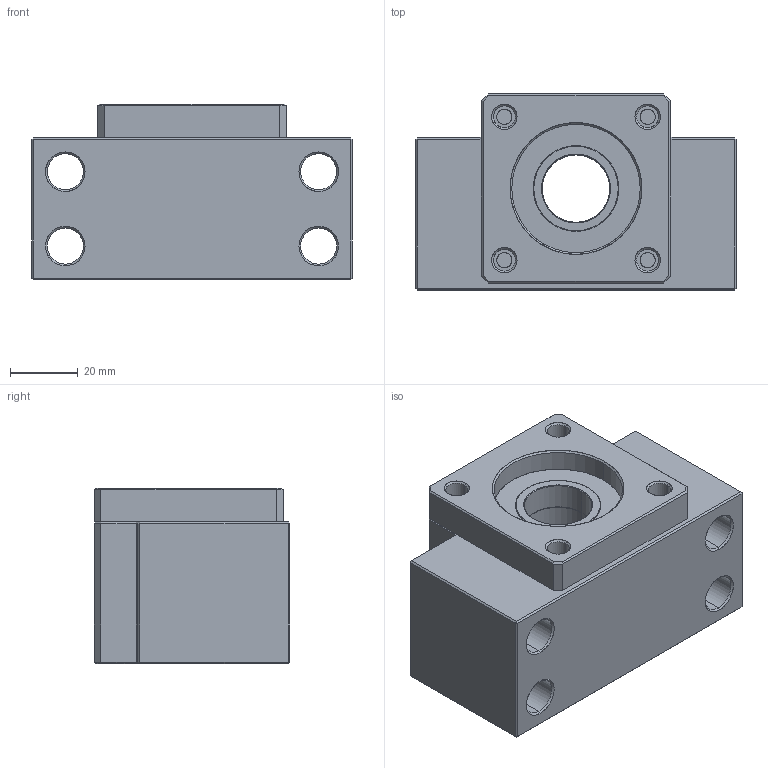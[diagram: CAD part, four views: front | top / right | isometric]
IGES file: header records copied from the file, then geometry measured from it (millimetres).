
Start section: SolidWorks IGES file using analytic representation for surfaces
Global section: file name: E:\同创达图纸\产品示意图\3D选型图\支撑座\AK系列\IGS\AK20.IGS; native system: SolidWorks 2012; preprocessor: SolidWorks 2012; author: gao; date: 130702.201658; units: millimetre
Bounding box: 95 x 58 x 52 mm (x, y, z)
Surface area: 38959.1 mm2 (no closed solid volume)
Topology: 0 solids, 0 shells, 202 faces, 2732 edges, 2728 vertices
Faces by surface type: revolution 110, bspline 92
